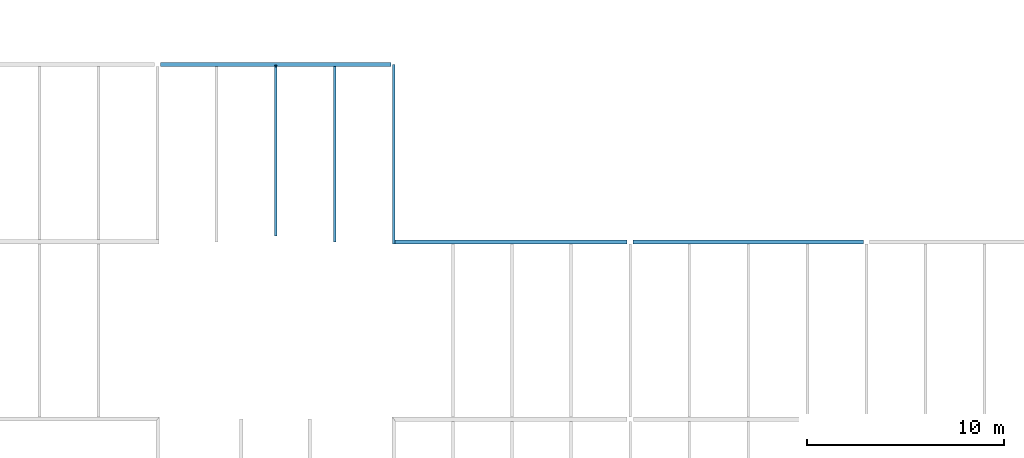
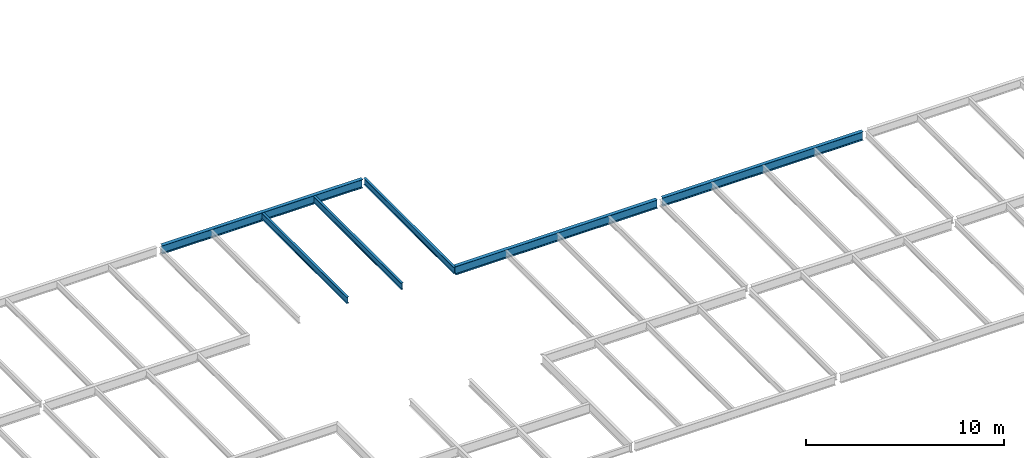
# One storey, part 13 of 21: 6 beams.
"""IFC2X3 building model written with IfcOpenShell, lengths in millimetres."""

from ifc_helpers import new_model, si_unit, origin, place, context, project, spatial, faceted_brep, material, element, save


model = new_model("IFC2X3")

# Units and contexts
context_of_model = context(None, 3, precision=1e-05, world=origin())
ifc_project = project(units=[si_unit("LENGTHUNIT", "METRE", prefix="MILLI")], contexts=[context_of_model])

# Building, storey
building = spatial("IfcBuilding", under=ifc_project, Name="Building", CompositionType="ELEMENT")
storey = spatial("IfcBuildingStorey", under=building, Name="FL3-FRM", CompositionType="ELEMENT")

# Beams
ifc_material_1 = material(Name="A992")
beam_1_placement = place(None, origin())
element("IfcBeam", 1, at=beam_1_placement, inside=storey, material=ifc_material_1, Name="Column463", context=context_of_model, shape_type="Brep", body=[
    faceted_brep([(154.0, 35895.5, 8345.0), (154.0, 36104.5, 8345.0), (11846.0, 36104.5, 8345.0), (11846.0, 35895.5, 8345.0), (154.0, 36104.5, 8358.3), (11846.0, 36104.5, 8358.3), (154.0, 36017.4, 8358.3), (11846.0, 36017.4, 8358.3), (154.0, 36014.2, 8358.73), (11846.0, 36014.2, 8358.73), (154.0, 36011.1, 8360.0), (11846.0, 36011.1, 8360.0), (154.0, 36008.5, 8362.02), (11846.0, 36008.5, 8362.02), (154.0, 36006.5, 8364.65), (11846.0, 36006.5, 8364.65), (154.0, 36005.2, 8367.71), (11846.0, 36005.2, 8367.71), (154.0, 36004.8, 8371.0), (11846.0, 36004.8, 8371.0), (154.0, 36004.8, 8847.0), (11846.0, 36004.8, 8847.0), (154.0, 36005.2, 8850.29), (11846.0, 36005.2, 8850.29), (154.0, 36006.5, 8853.35), (11846.0, 36006.5, 8853.35), (154.0, 36008.5, 8855.98), (11846.0, 36008.5, 8855.98), (154.0, 36011.1, 8858.0), (11846.0, 36011.1, 8858.0), (154.0, 36014.2, 8859.27), (11846.0, 36014.2, 8859.27), (154.0, 36017.4, 8859.7), (11846.0, 36017.4, 8859.7), (154.0, 36104.5, 8859.7), (11846.0, 36104.5, 8859.7), (154.0, 36104.5, 8873.0), (11846.0, 36104.5, 8873.0), (154.0, 35895.5, 8873.0), (11846.0, 35895.5, 8873.0), (154.0, 35895.5, 8859.7), (11846.0, 35895.5, 8859.7), (154.0, 35982.6, 8859.7), (11846.0, 35982.6, 8859.7), (154.0, 35985.8, 8859.27), (11846.0, 35985.8, 8859.27), (154.0, 35988.9, 8858.0), (11846.0, 35988.9, 8858.0), (154.0, 35991.5, 8855.98), (11846.0, 35991.5, 8855.98), (154.0, 35993.5, 8853.35), (11846.0, 35993.5, 8853.35), (154.0, 35994.8, 8850.29), (11846.0, 35994.8, 8850.29), (154.0, 35995.3, 8847.0), (11846.0, 35995.3, 8847.0), (154.0, 35995.3, 8371.0), (11846.0, 35995.3, 8371.0), (154.0, 35994.8, 8367.71), (11846.0, 35994.8, 8367.71), (154.0, 35993.5, 8364.65), (11846.0, 35993.5, 8364.65), (154.0, 35991.5, 8362.02), (11846.0, 35991.5, 8362.02), (154.0, 35988.9, 8360.0), (11846.0, 35988.9, 8360.0), (154.0, 35985.8, 8358.73), (11846.0, 35985.8, 8358.73), (154.0, 35982.6, 8358.3), (11846.0, 35982.6, 8358.3), (154.0, 35895.5, 8358.3), (11846.0, 35895.5, 8358.3)], [[[0, 1, 2, 3]], [[1, 4, 5, 2]], [[4, 6, 7, 5]], [[6, 8, 9, 7]], [[8, 10, 11, 9]], [[10, 12, 13, 11]], [[12, 14, 15, 13]], [[14, 16, 17, 15]], [[16, 18, 19, 17]], [[18, 20, 21, 19]], [[20, 22, 23, 21]], [[22, 24, 25, 23]], [[24, 26, 27, 25]], [[26, 28, 29, 27]], [[28, 30, 31, 29]], [[30, 32, 33, 31]], [[32, 34, 35, 33]], [[34, 36, 37, 35]], [[36, 38, 39, 37]], [[38, 40, 41, 39]], [[40, 42, 43, 41]], [[42, 44, 45, 43]], [[44, 46, 47, 45]], [[46, 48, 49, 47]], [[48, 50, 51, 49]], [[50, 52, 53, 51]], [[52, 54, 55, 53]], [[54, 56, 57, 55]], [[56, 58, 59, 57]], [[58, 60, 61, 59]], [[60, 62, 63, 61]], [[62, 64, 65, 63]], [[64, 66, 67, 65]], [[66, 68, 69, 67]], [[68, 70, 71, 69]], [[70, 0, 3, 71]], [[0, 70, 68, 66, 64, 62, 60, 58, 56, 54, 52, 50, 48, 46, 44, 42, 40, 38, 36, 34, 32, 30, 28, 26, 24, 22, 20, 18, 16, 14, 12, 10, 8, 6, 4, 1]], [[3, 2, 5, 7, 9, 11, 13, 15, 17, 19, 21, 23, 25, 27, 29, 31, 33, 35, 37, 39, 41, 43, 45, 47, 49, 51, 53, 55, 57, 59, 61, 63, 65, 67, 69, 71]]]),
])
ifc_material_2 = material(Name="A992")
beam_2_placement = place(None, origin())
element("IfcBeam", 2, at=beam_2_placement, inside=storey, material=ifc_material_2, Name="B426", context=context_of_model, shape_type="Brep", body=[
    faceted_brep([(8930.0, 35895.5, 8474.0), (9070.0, 35895.5, 8474.0), (9070.0, 27000.0, 8474.0), (8930.0, 27000.0, 8474.0), (9070.0, 35895.5, 8482.8), (9070.0, 27000.0, 8482.8), (9013.4, 35895.5, 8482.8), (9013.4, 27000.0, 8482.8), (9010.76, 35895.5, 8483.15), (9010.76, 27000.0, 8483.15), (9008.3, 35895.5, 8484.17), (9008.3, 27000.0, 8484.17), (9006.19, 35895.5, 8485.79), (9006.19, 27000.0, 8485.79), (9004.57, 35895.5, 8487.9), (9004.57, 27000.0, 8487.9), (9003.55, 35895.5, 8490.36), (9003.55, 27000.0, 8490.36), (9003.2, 35895.5, 8493.0), (9003.2, 27000.0, 8493.0), (9003.2, 35895.5, 8854.0), (9003.2, 27000.0, 8854.0), (9003.55, 35895.5, 8856.64), (9003.55, 27000.0, 8856.64), (9004.57, 35895.5, 8859.1), (9004.57, 27000.0, 8859.1), (9006.19, 35895.5, 8861.21), (9006.19, 27000.0, 8861.21), (9008.3, 35895.5, 8862.83), (9008.3, 27000.0, 8862.83), (9010.76, 35895.5, 8863.85), (9010.76, 27000.0, 8863.85), (9013.4, 35895.5, 8864.2), (9013.4, 27000.0, 8864.2), (9070.0, 35895.5, 8864.2), (9070.0, 27000.0, 8864.2), (9070.0, 35895.5, 8873.0), (9070.0, 27000.0, 8873.0), (8930.0, 35895.5, 8873.0), (8930.0, 27000.0, 8873.0), (8930.0, 35895.5, 8864.2), (8930.0, 27000.0, 8864.2), (8986.6, 35895.5, 8864.2), (8986.6, 27000.0, 8864.2), (8989.24, 35895.5, 8863.85), (8989.24, 27000.0, 8863.85), (8991.7, 35895.5, 8862.83), (8991.7, 27000.0, 8862.83), (8993.81, 35895.5, 8861.21), (8993.81, 27000.0, 8861.21), (8995.43, 35895.5, 8859.1), (8995.43, 27000.0, 8859.1), (8996.45, 35895.5, 8856.64), (8996.45, 27000.0, 8856.64), (8996.8, 35895.5, 8854.0), (8996.8, 27000.0, 8854.0), (8996.8, 35895.5, 8493.0), (8996.8, 27000.0, 8493.0), (8996.45, 35895.5, 8490.36), (8996.45, 27000.0, 8490.36), (8995.43, 35895.5, 8487.9), (8995.43, 27000.0, 8487.9), (8993.81, 35895.5, 8485.79), (8993.81, 27000.0, 8485.79), (8991.7, 35895.5, 8484.17), (8991.7, 27000.0, 8484.17), (8989.24, 35895.5, 8483.15), (8989.24, 27000.0, 8483.15), (8986.6, 35895.5, 8482.8), (8986.6, 27000.0, 8482.8), (8930.0, 35895.5, 8482.8), (8930.0, 27000.0, 8482.8)], [[[0, 1, 2, 3]], [[1, 4, 5, 2]], [[4, 6, 7, 5]], [[6, 8, 9, 7]], [[8, 10, 11, 9]], [[10, 12, 13, 11]], [[12, 14, 15, 13]], [[14, 16, 17, 15]], [[16, 18, 19, 17]], [[18, 20, 21, 19]], [[20, 22, 23, 21]], [[22, 24, 25, 23]], [[24, 26, 27, 25]], [[26, 28, 29, 27]], [[28, 30, 31, 29]], [[30, 32, 33, 31]], [[32, 34, 35, 33]], [[34, 36, 37, 35]], [[36, 38, 39, 37]], [[38, 40, 41, 39]], [[40, 42, 43, 41]], [[42, 44, 45, 43]], [[44, 46, 47, 45]], [[46, 48, 49, 47]], [[48, 50, 51, 49]], [[50, 52, 53, 51]], [[52, 54, 55, 53]], [[54, 56, 57, 55]], [[56, 58, 59, 57]], [[58, 60, 61, 59]], [[60, 62, 63, 61]], [[62, 64, 65, 63]], [[64, 66, 67, 65]], [[66, 68, 69, 67]], [[68, 70, 71, 69]], [[70, 0, 3, 71]], [[0, 70, 68, 66, 64, 62, 60, 58, 56, 54, 52, 50, 48, 46, 44, 42, 40, 38, 36, 34, 32, 30, 28, 26, 24, 22, 20, 18, 16, 14, 12, 10, 8, 6, 4, 1]], [[3, 2, 5, 7, 9, 11, 13, 15, 17, 19, 21, 23, 25, 27, 29, 31, 33, 35, 37, 39, 41, 43, 45, 47, 49, 51, 53, 55, 57, 59, 61, 63, 65, 67, 69, 71]]]),
])
ifc_material_3 = material(Name="A992")
beam_3_placement = place(None, origin())
element("IfcBeam", 3, at=beam_3_placement, inside=storey, material=ifc_material_3, Name="Column470", context=context_of_model, shape_type="Brep", body=[
    faceted_brep([(24154.0, 26895.5, 8345.0), (24154.0, 27104.5, 8345.0), (35846.0, 27104.5, 8345.0), (35846.0, 26895.5, 8345.0), (24154.0, 27104.5, 8358.3), (35846.0, 27104.5, 8358.3), (24154.0, 27017.4, 8358.3), (35846.0, 27017.4, 8358.3), (24154.0, 27014.2, 8358.73), (35846.0, 27014.2, 8358.73), (24154.0, 27011.1, 8360.0), (35846.0, 27011.1, 8360.0), (24154.0, 27008.5, 8362.02), (35846.0, 27008.5, 8362.02), (24154.0, 27006.5, 8364.65), (35846.0, 27006.5, 8364.65), (24154.0, 27005.2, 8367.71), (35846.0, 27005.2, 8367.71), (24154.0, 27004.8, 8371.0), (35846.0, 27004.8, 8371.0), (24154.0, 27004.8, 8847.0), (35846.0, 27004.8, 8847.0), (24154.0, 27005.2, 8850.29), (35846.0, 27005.2, 8850.29), (24154.0, 27006.5, 8853.35), (35846.0, 27006.5, 8853.35), (24154.0, 27008.5, 8855.98), (35846.0, 27008.5, 8855.98), (24154.0, 27011.1, 8858.0), (35846.0, 27011.1, 8858.0), (24154.0, 27014.2, 8859.27), (35846.0, 27014.2, 8859.27), (24154.0, 27017.4, 8859.7), (35846.0, 27017.4, 8859.7), (24154.0, 27104.5, 8859.7), (35846.0, 27104.5, 8859.7), (24154.0, 27104.5, 8873.0), (35846.0, 27104.5, 8873.0), (24154.0, 26895.5, 8873.0), (35846.0, 26895.5, 8873.0), (24154.0, 26895.5, 8859.7), (35846.0, 26895.5, 8859.7), (24154.0, 26982.6, 8859.7), (35846.0, 26982.6, 8859.7), (24154.0, 26985.8, 8859.27), (35846.0, 26985.8, 8859.27), (24154.0, 26988.9, 8858.0), (35846.0, 26988.9, 8858.0), (24154.0, 26991.5, 8855.98), (35846.0, 26991.5, 8855.98), (24154.0, 26993.5, 8853.35), (35846.0, 26993.5, 8853.35), (24154.0, 26994.8, 8850.29), (35846.0, 26994.8, 8850.29), (24154.0, 26995.3, 8847.0), (35846.0, 26995.3, 8847.0), (24154.0, 26995.3, 8371.0), (35846.0, 26995.3, 8371.0), (24154.0, 26994.8, 8367.71), (35846.0, 26994.8, 8367.71), (24154.0, 26993.5, 8364.65), (35846.0, 26993.5, 8364.65), (24154.0, 26991.5, 8362.02), (35846.0, 26991.5, 8362.02), (24154.0, 26988.9, 8360.0), (35846.0, 26988.9, 8360.0), (24154.0, 26985.8, 8358.73), (35846.0, 26985.8, 8358.73), (24154.0, 26982.6, 8358.3), (35846.0, 26982.6, 8358.3), (24154.0, 26895.5, 8358.3), (35846.0, 26895.5, 8358.3)], [[[0, 1, 2, 3]], [[1, 4, 5, 2]], [[4, 6, 7, 5]], [[6, 8, 9, 7]], [[8, 10, 11, 9]], [[10, 12, 13, 11]], [[12, 14, 15, 13]], [[14, 16, 17, 15]], [[16, 18, 19, 17]], [[18, 20, 21, 19]], [[20, 22, 23, 21]], [[22, 24, 25, 23]], [[24, 26, 27, 25]], [[26, 28, 29, 27]], [[28, 30, 31, 29]], [[30, 32, 33, 31]], [[32, 34, 35, 33]], [[34, 36, 37, 35]], [[36, 38, 39, 37]], [[38, 40, 41, 39]], [[40, 42, 43, 41]], [[42, 44, 45, 43]], [[44, 46, 47, 45]], [[46, 48, 49, 47]], [[48, 50, 51, 49]], [[50, 52, 53, 51]], [[52, 54, 55, 53]], [[54, 56, 57, 55]], [[56, 58, 59, 57]], [[58, 60, 61, 59]], [[60, 62, 63, 61]], [[62, 64, 65, 63]], [[64, 66, 67, 65]], [[66, 68, 69, 67]], [[68, 70, 71, 69]], [[70, 0, 3, 71]], [[0, 70, 68, 66, 64, 62, 60, 58, 56, 54, 52, 50, 48, 46, 44, 42, 40, 38, 36, 34, 32, 30, 28, 26, 24, 22, 20, 18, 16, 14, 12, 10, 8, 6, 4, 1]], [[3, 2, 5, 7, 9, 11, 13, 15, 17, 19, 21, 23, 25, 27, 29, 31, 33, 35, 37, 39, 41, 43, 45, 47, 49, 51, 53, 55, 57, 59, 61, 63, 65, 67, 69, 71]]]),
])
ifc_material_4 = material(Name="A992")
beam_4_placement = place(None, origin())
element("IfcBeam", 4, at=beam_4_placement, inside=storey, material=ifc_material_4, Name="Column473", context=context_of_model, shape_type="Brep", body=[
    faceted_brep([(12070.0, 26895.5, 8345.0), (12070.0, 27104.5, 8345.0), (23846.0, 27104.5, 8345.0), (23846.0, 26895.5, 8345.0), (12070.0, 27104.5, 8358.3), (23846.0, 27104.5, 8358.3), (12070.0, 27017.4, 8358.3), (23846.0, 27017.4, 8358.3), (12070.0, 27014.2, 8358.73), (23846.0, 27014.2, 8358.73), (12070.0, 27011.1, 8360.0), (23846.0, 27011.1, 8360.0), (12070.0, 27008.5, 8362.02), (23846.0, 27008.5, 8362.02), (12070.0, 27006.5, 8364.65), (23846.0, 27006.5, 8364.65), (12070.0, 27005.2, 8367.71), (23846.0, 27005.2, 8367.71), (12070.0, 27004.8, 8371.0), (23846.0, 27004.8, 8371.0), (12070.0, 27004.8, 8847.0), (23846.0, 27004.8, 8847.0), (12070.0, 27005.2, 8850.29), (23846.0, 27005.2, 8850.29), (12070.0, 27006.5, 8853.35), (23846.0, 27006.5, 8853.35), (12070.0, 27008.5, 8855.98), (23846.0, 27008.5, 8855.98), (12070.0, 27011.1, 8858.0), (23846.0, 27011.1, 8858.0), (12070.0, 27014.2, 8859.27), (23846.0, 27014.2, 8859.27), (12070.0, 27017.4, 8859.7), (23846.0, 27017.4, 8859.7), (12070.0, 27104.5, 8859.7), (23846.0, 27104.5, 8859.7), (12070.0, 27104.5, 8873.0), (23846.0, 27104.5, 8873.0), (12070.0, 26895.5, 8873.0), (23846.0, 26895.5, 8873.0), (12070.0, 26895.5, 8859.7), (23846.0, 26895.5, 8859.7), (12070.0, 26982.6, 8859.7), (23846.0, 26982.6, 8859.7), (12070.0, 26985.8, 8859.27), (23846.0, 26985.8, 8859.27), (12070.0, 26988.9, 8858.0), (23846.0, 26988.9, 8858.0), (12070.0, 26991.5, 8855.98), (23846.0, 26991.5, 8855.98), (12070.0, 26993.5, 8853.35), (23846.0, 26993.5, 8853.35), (12070.0, 26994.8, 8850.29), (23846.0, 26994.8, 8850.29), (12070.0, 26995.3, 8847.0), (23846.0, 26995.3, 8847.0), (12070.0, 26995.3, 8371.0), (23846.0, 26995.3, 8371.0), (12070.0, 26994.8, 8367.71), (23846.0, 26994.8, 8367.71), (12070.0, 26993.5, 8364.65), (23846.0, 26993.5, 8364.65), (12070.0, 26991.5, 8362.02), (23846.0, 26991.5, 8362.02), (12070.0, 26988.9, 8360.0), (23846.0, 26988.9, 8360.0), (12070.0, 26985.8, 8358.73), (23846.0, 26985.8, 8358.73), (12070.0, 26982.6, 8358.3), (23846.0, 26982.6, 8358.3), (12070.0, 26895.5, 8358.3), (23846.0, 26895.5, 8358.3)], [[[0, 1, 2, 3]], [[1, 4, 5, 2]], [[4, 6, 7, 5]], [[6, 8, 9, 7]], [[8, 10, 11, 9]], [[10, 12, 13, 11]], [[12, 14, 15, 13]], [[14, 16, 17, 15]], [[16, 18, 19, 17]], [[18, 20, 21, 19]], [[20, 22, 23, 21]], [[22, 24, 25, 23]], [[24, 26, 27, 25]], [[26, 28, 29, 27]], [[28, 30, 31, 29]], [[30, 32, 33, 31]], [[32, 34, 35, 33]], [[34, 36, 37, 35]], [[36, 38, 39, 37]], [[38, 40, 41, 39]], [[40, 42, 43, 41]], [[42, 44, 45, 43]], [[44, 46, 47, 45]], [[46, 48, 49, 47]], [[48, 50, 51, 49]], [[50, 52, 53, 51]], [[52, 54, 55, 53]], [[54, 56, 57, 55]], [[56, 58, 59, 57]], [[58, 60, 61, 59]], [[60, 62, 63, 61]], [[62, 64, 65, 63]], [[64, 66, 67, 65]], [[66, 68, 69, 67]], [[68, 70, 71, 69]], [[70, 0, 3, 71]], [[0, 70, 68, 66, 64, 62, 60, 58, 56, 54, 52, 50, 48, 46, 44, 42, 40, 38, 36, 34, 32, 30, 28, 26, 24, 22, 20, 18, 16, 14, 12, 10, 8, 6, 4, 1]], [[3, 2, 5, 7, 9, 11, 13, 15, 17, 19, 21, 23, 25, 27, 29, 31, 33, 35, 37, 39, 41, 43, 45, 47, 49, 51, 53, 55, 57, 59, 61, 63, 65, 67, 69, 71]]]),
])
ifc_material_5 = material(Name="A992")
beam_5_placement = place(None, origin())
element("IfcBeam", 5, at=beam_5_placement, inside=storey, material=ifc_material_5, Name="B747", context=context_of_model, shape_type="Brep", body=[
    faceted_brep([(11930.0, 35995.1, 8474.0), (12070.0, 35995.1, 8474.0), (12070.0, 26895.5, 8474.0), (11930.0, 26895.5, 8474.0), (12070.0, 35995.1, 8482.8), (12070.0, 26895.5, 8482.8), (12013.4, 35995.1, 8482.8), (12013.4, 26895.5, 8482.8), (12010.8, 35995.1, 8483.15), (12010.8, 26895.5, 8483.15), (12008.3, 35995.1, 8484.17), (12008.3, 26895.5, 8484.17), (12006.2, 35995.1, 8485.79), (12006.2, 26895.5, 8485.79), (12004.6, 35995.1, 8487.9), (12004.6, 26895.5, 8487.9), (12003.5, 35995.1, 8490.36), (12003.5, 26895.5, 8490.36), (12003.2, 35995.1, 8493.0), (12003.2, 26895.5, 8493.0), (12003.2, 35995.1, 8854.0), (12003.2, 26895.5, 8854.0), (12003.5, 35995.1, 8856.64), (12003.5, 26895.5, 8856.64), (12004.6, 35995.1, 8859.1), (12004.6, 26895.5, 8859.1), (12006.2, 35995.1, 8861.21), (12006.2, 26895.5, 8861.21), (12008.3, 35995.1, 8862.83), (12008.3, 26895.5, 8862.83), (12010.8, 35995.1, 8863.85), (12010.8, 26895.5, 8863.85), (12013.4, 35995.1, 8864.2), (12013.4, 26895.5, 8864.2), (12070.0, 35995.1, 8864.2), (12070.0, 26895.5, 8864.2), (12070.0, 35995.1, 8873.0), (12070.0, 26895.5, 8873.0), (11930.0, 35995.1, 8873.0), (11930.0, 26895.5, 8873.0), (11930.0, 35995.1, 8864.2), (11930.0, 26895.5, 8864.2), (11986.6, 35995.1, 8864.2), (11986.6, 26895.5, 8864.2), (11989.2, 35995.1, 8863.85), (11989.2, 26895.5, 8863.85), (11991.7, 35995.1, 8862.83), (11991.7, 26895.5, 8862.83), (11993.8, 35995.1, 8861.21), (11993.8, 26895.5, 8861.21), (11995.4, 35995.1, 8859.1), (11995.4, 26895.5, 8859.1), (11996.5, 35995.1, 8856.64), (11996.5, 26895.5, 8856.64), (11996.8, 35995.1, 8854.0), (11996.8, 26895.5, 8854.0), (11996.8, 35995.1, 8493.0), (11996.8, 26895.5, 8493.0), (11996.5, 35995.1, 8490.36), (11996.5, 26895.5, 8490.36), (11995.4, 35995.1, 8487.9), (11995.4, 26895.5, 8487.9), (11993.8, 35995.1, 8485.79), (11993.8, 26895.5, 8485.79), (11991.7, 35995.1, 8484.17), (11991.7, 26895.5, 8484.17), (11989.2, 35995.1, 8483.15), (11989.2, 26895.5, 8483.15), (11986.6, 35995.1, 8482.8), (11986.6, 26895.5, 8482.8), (11930.0, 35995.1, 8482.8), (11930.0, 26895.5, 8482.8)], [[[0, 1, 2, 3]], [[1, 4, 5, 2]], [[4, 6, 7, 5]], [[6, 8, 9, 7]], [[8, 10, 11, 9]], [[10, 12, 13, 11]], [[12, 14, 15, 13]], [[14, 16, 17, 15]], [[16, 18, 19, 17]], [[18, 20, 21, 19]], [[20, 22, 23, 21]], [[22, 24, 25, 23]], [[24, 26, 27, 25]], [[26, 28, 29, 27]], [[28, 30, 31, 29]], [[30, 32, 33, 31]], [[32, 34, 35, 33]], [[34, 36, 37, 35]], [[36, 38, 39, 37]], [[38, 40, 41, 39]], [[40, 42, 43, 41]], [[42, 44, 45, 43]], [[44, 46, 47, 45]], [[46, 48, 49, 47]], [[48, 50, 51, 49]], [[50, 52, 53, 51]], [[52, 54, 55, 53]], [[54, 56, 57, 55]], [[56, 58, 59, 57]], [[58, 60, 61, 59]], [[60, 62, 63, 61]], [[62, 64, 65, 63]], [[64, 66, 67, 65]], [[66, 68, 69, 67]], [[68, 70, 71, 69]], [[70, 0, 3, 71]], [[0, 70, 68, 66, 64, 62, 60, 58, 56, 54, 52, 50, 48, 46, 44, 42, 40, 38, 36, 34, 32, 30, 28, 26, 24, 22, 20, 18, 16, 14, 12, 10, 8, 6, 4, 1]], [[3, 2, 5, 7, 9, 11, 13, 15, 17, 19, 21, 23, 25, 27, 29, 31, 33, 35, 37, 39, 41, 43, 45, 47, 49, 51, 53, 55, 57, 59, 61, 63, 65, 67, 69, 71]]]),
])
ifc_material_6 = material(Name="A992")
beam_6_placement = place(None, origin())
element("IfcBeam", 6, at=beam_6_placement, inside=storey, material=ifc_material_6, Name="B762", context=context_of_model, shape_type="Brep", body=[
    faceted_brep([(5930.0, 35985.3, 8474.0), (6070.0, 35985.3, 8474.0), (6070.0, 27304.8, 8474.0), (5930.0, 27304.8, 8474.0), (6070.0, 35985.3, 8482.8), (6070.0, 27304.8, 8482.8), (6013.4, 35985.3, 8482.8), (6013.4, 27304.8, 8482.8), (6012.96, 35985.3, 8482.81), (6012.96, 27304.8, 8482.81), (6012.51, 35985.3, 8482.84), (6012.51, 27304.8, 8482.84), (6012.07, 35985.3, 8482.89), (6012.07, 27304.8, 8482.89), (6011.63, 35985.3, 8482.95), (6011.63, 27304.8, 8482.95), (6011.19, 35985.2, 8483.04), (6011.19, 27304.8, 8483.04), (6010.76, 35985.2, 8483.15), (6010.76, 27304.8, 8483.15), (6010.33, 35985.2, 8483.27), (6010.33, 27304.8, 8483.27), (6009.91, 35985.2, 8483.42), (6009.91, 27304.8, 8483.42), (6009.5, 35985.3, 8483.58), (6009.5, 27304.8, 8483.58), (6009.09, 35985.3, 8483.76), (6009.09, 27304.8, 8483.76), (6008.69, 35985.3, 8483.95), (6008.69, 27304.8, 8483.95), (6008.3, 35985.3, 8484.17), (6008.3, 27304.8, 8484.17), (6007.92, 35985.3, 8484.4), (6007.92, 27304.8, 8484.4), (6007.55, 35985.3, 8484.64), (6007.55, 27304.8, 8484.64), (6007.19, 35985.3, 8484.91), (6007.19, 27304.8, 8484.91), (6006.84, 35985.3, 8485.19), (6006.84, 27304.8, 8485.19), (6006.51, 35985.3, 8485.48), (6006.51, 27304.8, 8485.48), (6006.19, 35985.3, 8485.79), (6006.19, 27304.8, 8485.79), (6005.88, 35985.3, 8486.11), (6005.88, 27304.8, 8486.11), (6005.59, 35985.3, 8486.44), (6005.59, 27304.8, 8486.44), (6005.31, 35985.3, 8486.79), (6005.31, 27304.8, 8486.79), (6005.04, 35985.3, 8487.15), (6005.04, 27304.8, 8487.15), (6004.8, 35985.3, 8487.52), (6004.8, 27304.8, 8487.52), (6004.57, 35985.3, 8487.9), (6004.57, 27304.8, 8487.9), (6004.35, 35985.3, 8488.29), (6004.35, 27304.8, 8488.29), (6004.16, 35985.3, 8488.69), (6004.16, 27304.8, 8488.69), (6003.98, 35985.3, 8489.1), (6003.98, 27304.8, 8489.1), (6003.82, 35985.3, 8489.51), (6003.82, 27304.8, 8489.51), (6003.67, 35985.3, 8489.93), (6003.67, 27304.8, 8489.93), (6003.55, 35985.3, 8490.36), (6003.55, 27304.8, 8490.36), (6003.44, 35985.3, 8490.79), (6003.44, 27304.8, 8490.79), (6003.35, 35985.3, 8491.23), (6003.35, 27304.8, 8491.23), (6003.29, 35985.3, 8491.67), (6003.29, 27304.8, 8491.67), (6003.24, 35985.3, 8492.11), (6003.24, 27304.8, 8492.11), (6003.21, 35985.3, 8492.56), (6003.21, 27304.8, 8492.56), (6003.2, 35985.3, 8493.0), (6003.2, 27304.8, 8493.0), (6003.2, 35985.3, 8849.69), (6003.2, 35895.5, 8849.69), (6003.2, 35895.1, 8849.7), (6003.2, 35894.6, 8849.73), (6003.2, 35894.2, 8849.78), (6003.2, 35893.7, 8849.85), (6003.2, 35893.3, 8849.94), (6003.2, 35892.8, 8850.05), (6003.2, 35892.4, 8850.18), (6003.2, 35892.0, 8850.33), (6003.2, 35891.6, 8850.49), (6003.2, 35891.2, 8850.68), (6003.2, 35890.8, 8850.88), (6003.2, 35890.4, 8851.11), (6003.2, 35890.0, 8851.34), (6003.2, 35889.6, 8851.6), (6003.2, 35889.3, 8851.87), (6003.2, 35888.9, 8852.16), (6003.2, 35888.6, 8852.46), (6003.2, 35888.3, 8852.78), (6003.2, 35888.0, 8853.11), (6003.2, 35887.7, 8853.46), (6003.2, 35887.4, 8853.81), (6003.2, 35887.3, 8854.0), (6003.2, 27304.8, 8854.0), (6003.2, 35887.2, 8854.18), (6003.21, 35887.0, 8854.44), (6003.21, 27304.8, 8854.44), (6003.22, 35886.9, 8854.56), (6003.24, 35886.7, 8854.89), (6003.24, 27304.8, 8854.89), (6003.25, 35886.7, 8854.95), (6003.29, 35886.5, 8855.33), (6003.29, 27304.8, 8855.33), (6003.29, 35886.5, 8855.35), (6003.35, 35886.3, 8855.76), (6003.35, 35886.3, 8855.77), (6003.35, 27304.8, 8855.77), (6003.44, 35886.1, 8856.18), (6003.44, 35886.1, 8856.21), (6003.44, 27304.8, 8856.21), (6003.54, 35886.0, 8856.6), (6003.55, 35886.0, 8856.64), (6003.55, 27304.8, 8856.64), (6003.66, 35885.9, 8857.03), (6003.67, 35885.9, 8857.07), (6003.67, 27304.8, 8857.07), (6003.81, 35885.8, 8857.46), (6003.82, 35885.7, 8857.49), (6003.82, 27304.8, 8857.49), (6003.98, 35885.7, 8857.9), (6003.98, 27304.8, 8857.9), (6003.98, 35885.7, 8857.9), (6004.16, 35885.6, 8858.31), (6004.16, 27304.8, 8858.31), (6004.17, 35885.6, 8858.35), (6004.35, 35885.5, 8858.71), (6004.35, 27304.8, 8858.71), (6004.4, 35885.5, 8858.79), (6004.57, 35885.5, 8859.1), (6004.57, 27304.8, 8859.1), (6004.65, 35885.5, 8859.24), (6004.8, 35885.5, 8859.48), (6004.8, 27304.8, 8859.48), (6004.94, 35885.5, 8859.69), (6005.04, 35885.5, 8859.85), (6005.04, 27304.8, 8859.85), (6005.31, 35885.5, 8860.21), (6005.31, 27304.8, 8860.21), (6005.59, 35885.5, 8860.56), (6005.59, 27304.8, 8860.56), (6005.88, 35885.5, 8860.89), (6005.88, 27304.8, 8860.89), (6006.19, 35885.5, 8861.21), (6006.19, 27304.8, 8861.21), (6006.51, 35885.5, 8861.52), (6006.51, 27304.8, 8861.52), (6006.84, 35885.5, 8861.81), (6006.84, 27304.8, 8861.81), (6007.19, 35885.5, 8862.09), (6007.19, 27304.8, 8862.09), (6007.55, 35885.5, 8862.36), (6007.55, 27304.8, 8862.36), (6007.92, 35885.5, 8862.6), (6007.92, 27304.8, 8862.6), (6008.3, 35885.5, 8862.83), (6008.3, 27304.8, 8862.83), (6008.69, 35885.5, 8863.05), (6008.69, 27304.8, 8863.05), (6009.09, 35885.5, 8863.24), (6009.09, 27304.8, 8863.24), (6009.5, 35885.5, 8863.42), (6009.5, 27304.8, 8863.42), (6009.91, 35885.5, 8863.58), (6009.91, 27304.8, 8863.58), (6010.33, 35885.5, 8863.73), (6010.33, 27304.8, 8863.73), (6010.76, 35885.5, 8863.85), (6010.76, 27304.8, 8863.85), (6011.19, 35885.5, 8863.96), (6011.19, 27304.8, 8863.96), (6011.63, 35885.5, 8864.05), (6011.63, 27304.8, 8864.05), (6012.07, 35885.5, 8864.11), (6012.07, 27304.8, 8864.11), (6012.51, 35885.5, 8864.16), (6012.51, 27304.8, 8864.16), (6012.96, 35885.5, 8864.19), (6012.96, 27304.8, 8864.19), (6013.4, 35885.5, 8864.2), (6013.4, 27304.8, 8864.2), (6070.0, 35885.5, 8864.2), (6070.0, 27304.8, 8864.2), (6070.0, 35885.5, 8873.0), (6070.0, 27304.8, 8873.0), (5930.0, 35885.5, 8873.0), (5930.0, 27304.8, 8873.0), (5930.0, 35885.5, 8864.2), (5930.0, 27304.8, 8864.2), (5986.6, 35885.5, 8864.2), (5986.6, 27304.8, 8864.2), (5987.04, 35885.5, 8864.19), (5987.04, 27304.8, 8864.19), (5987.49, 35885.5, 8864.16), (5987.49, 27304.8, 8864.16), (5987.93, 35885.5, 8864.11), (5987.93, 27304.8, 8864.11), (5988.37, 35885.5, 8864.05), (5988.37, 27304.8, 8864.05), (5988.81, 35885.5, 8863.96), (5988.81, 27304.8, 8863.96), (5989.24, 35885.5, 8863.85), (5989.24, 27304.8, 8863.85), (5989.67, 35885.5, 8863.73), (5989.67, 27304.8, 8863.73), (5990.09, 35885.5, 8863.58), (5990.09, 27304.8, 8863.58), (5990.5, 35885.5, 8863.42), (5990.5, 27304.8, 8863.42), (5990.91, 35885.5, 8863.24), (5990.91, 27304.8, 8863.24), (5991.31, 35885.5, 8863.05), (5991.31, 27304.8, 8863.05), (5991.7, 35885.5, 8862.83), (5991.7, 27304.8, 8862.83), (5992.08, 35885.5, 8862.6), (5992.08, 27304.8, 8862.6), (5992.45, 35885.5, 8862.36), (5992.45, 27304.8, 8862.36), (5992.81, 35885.5, 8862.09), (5992.81, 27304.8, 8862.09), (5993.16, 35885.5, 8861.81), (5993.16, 27304.8, 8861.81), (5993.49, 35885.5, 8861.52), (5993.49, 27304.8, 8861.52), (5993.81, 35885.5, 8861.21), (5993.81, 27304.8, 8861.21), (5994.12, 35885.5, 8860.89), (5994.12, 27304.8, 8860.89), (5994.41, 35885.5, 8860.56), (5994.41, 27304.8, 8860.56), (5994.69, 35885.5, 8860.21), (5994.69, 27304.8, 8860.21), (5994.96, 35885.5, 8859.85), (5994.96, 27304.8, 8859.85), (5995.06, 35885.5, 8859.69), (5995.2, 35885.5, 8859.48), (5995.2, 27304.8, 8859.48), (5995.35, 35885.5, 8859.24), (5995.43, 35885.5, 8859.1), (5995.43, 27304.8, 8859.1), (5995.6, 35885.5, 8858.79), (5995.65, 35885.5, 8858.71), (5995.65, 27304.8, 8858.71), (5995.83, 35885.6, 8858.35), (5995.84, 35885.6, 8858.31), (5995.84, 27304.8, 8858.31), (5996.02, 35885.7, 8857.9), (5996.02, 35885.7, 8857.9), (5996.02, 27304.8, 8857.9), (5996.18, 35885.7, 8857.49), (5996.18, 27304.8, 8857.49), (5996.19, 35885.8, 8857.46), (5996.33, 35885.9, 8857.07), (5996.33, 27304.8, 8857.07), (5996.34, 35885.9, 8857.03), (5996.45, 35886.0, 8856.64), (5996.45, 27304.8, 8856.64), (5996.46, 35886.0, 8856.6), (5996.56, 35886.1, 8856.21), (5996.56, 27304.8, 8856.21), (5996.56, 35886.1, 8856.18), (5996.65, 35886.3, 8855.77), (5996.65, 27304.8, 8855.77), (5996.65, 35886.3, 8855.76), (5996.71, 35886.5, 8855.35), (5996.71, 35886.5, 8855.33), (5996.71, 27304.8, 8855.33), (5996.75, 35886.7, 8854.95), (5996.76, 35886.7, 8854.89), (5996.76, 27304.8, 8854.89), (5996.78, 35886.9, 8854.56), (5996.79, 35887.0, 8854.44), (5996.79, 27304.8, 8854.44), (5996.8, 35887.2, 8854.18), (5996.8, 35887.3, 8854.0), (5996.8, 27304.8, 8854.0), (5996.8, 35887.4, 8853.81), (5996.8, 35887.7, 8853.46), (5996.8, 35888.0, 8853.11), (5996.8, 35888.3, 8852.78), (5996.8, 35888.6, 8852.46), (5996.8, 35888.9, 8852.16), (5996.8, 35889.3, 8851.87), (5996.8, 35889.6, 8851.6), (5996.8, 35890.0, 8851.34), (5996.8, 35890.4, 8851.11), (5996.8, 35890.8, 8850.88), (5996.8, 35891.2, 8850.68), (5996.8, 35891.6, 8850.49), (5996.8, 35892.0, 8850.33), (5996.8, 35892.4, 8850.18), (5996.8, 35892.8, 8850.05), (5996.8, 35893.3, 8849.94), (5996.8, 35893.7, 8849.85), (5996.8, 35894.2, 8849.78), (5996.8, 35894.6, 8849.73), (5996.8, 35895.1, 8849.7), (5996.8, 35895.5, 8849.69), (5996.8, 35985.3, 8849.69), (5996.8, 35985.3, 8493.0), (5996.8, 27304.8, 8493.0), (5996.79, 35985.3, 8492.54), (5996.79, 27304.8, 8492.54), (5996.76, 35985.3, 8492.09), (5996.76, 27304.8, 8492.09), (5996.71, 35985.3, 8491.63), (5996.71, 27304.8, 8491.63), (5996.64, 35985.3, 8491.18), (5996.64, 27304.8, 8491.18), (5996.54, 35985.3, 8490.73), (5996.54, 27304.8, 8490.73), (5996.43, 35985.3, 8490.29), (5996.43, 27304.8, 8490.29), (5996.3, 35985.3, 8489.85), (5996.3, 27304.8, 8489.85), (5996.15, 35985.3, 8489.42), (5996.15, 27304.8, 8489.42), (5995.98, 35985.3, 8488.99), (5995.98, 27304.8, 8488.99), (5995.79, 35985.3, 8488.57), (5995.79, 27304.8, 8488.57), (5995.58, 35985.3, 8488.17), (5995.58, 27304.8, 8488.17), (5995.36, 35985.3, 8487.77), (5995.36, 27304.8, 8487.77), (5995.11, 35985.3, 8487.38), (5995.11, 27304.8, 8487.38), (5994.85, 35985.3, 8487.0), (5994.85, 27304.8, 8487.0), (5994.57, 35985.3, 8486.64), (5994.57, 27304.8, 8486.64), (5994.28, 35985.3, 8486.29), (5994.28, 27304.8, 8486.29), (5993.97, 35985.3, 8485.95), (5993.97, 27304.8, 8485.95), (5993.65, 35985.3, 8485.63), (5993.65, 27304.8, 8485.63), (5993.31, 35985.3, 8485.32), (5993.31, 27304.8, 8485.32), (5992.96, 35985.3, 8485.03), (5992.96, 27304.8, 8485.03), (5992.6, 35985.3, 8484.75), (5992.6, 27304.8, 8484.75), (5992.22, 35985.3, 8484.49), (5992.22, 27304.8, 8484.49), (5991.83, 35985.3, 8484.24), (5991.83, 27304.8, 8484.24), (5991.43, 35985.3, 8484.02), (5991.43, 27304.8, 8484.02), (5991.03, 35985.3, 8483.81), (5991.03, 27304.8, 8483.81), (5990.61, 35985.3, 8483.62), (5990.61, 27304.8, 8483.62), (5990.18, 35985.3, 8483.45), (5990.18, 27304.8, 8483.45), (5989.75, 35985.3, 8483.3), (5989.75, 27304.8, 8483.3), (5989.31, 35985.3, 8483.17), (5989.31, 27304.8, 8483.17), (5988.87, 35985.3, 8483.06), (5988.87, 27304.8, 8483.06), (5988.42, 35985.3, 8482.96), (5988.42, 27304.8, 8482.96), (5987.97, 35985.3, 8482.89), (5987.97, 27304.8, 8482.89), (5987.51, 35985.3, 8482.84), (5987.51, 27304.8, 8482.84), (5987.06, 35985.3, 8482.81), (5987.06, 27304.8, 8482.81), (5986.6, 35985.3, 8482.8), (5986.6, 27304.8, 8482.8), (5930.0, 35985.3, 8482.8), (5930.0, 27304.8, 8482.8)], [[[0, 1, 2, 3]], [[1, 4, 5, 2]], [[4, 6, 7, 5]], [[6, 8, 9, 7]], [[8, 10, 11, 9]], [[10, 12, 13, 11]], [[12, 14, 15, 13]], [[14, 16, 17, 15]], [[16, 18, 19, 17]], [[18, 20, 21, 19]], [[20, 22, 23, 21]], [[22, 24, 25, 23]], [[24, 26, 27, 25]], [[26, 28, 29, 27]], [[28, 30, 31, 29]], [[30, 32, 33, 31]], [[32, 34, 35, 33]], [[34, 36, 37, 35]], [[36, 38, 39, 37]], [[38, 40, 41, 39]], [[40, 42, 43, 41]], [[42, 44, 45, 43]], [[44, 46, 47, 45]], [[46, 48, 49, 47]], [[48, 50, 51, 49]], [[50, 52, 53, 51]], [[52, 54, 55, 53]], [[54, 56, 57, 55]], [[56, 58, 59, 57]], [[58, 60, 61, 59]], [[60, 62, 63, 61]], [[62, 64, 65, 63]], [[64, 66, 67, 65]], [[66, 68, 69, 67]], [[68, 70, 71, 69]], [[70, 72, 73, 71]], [[72, 74, 75, 73]], [[74, 76, 77, 75]], [[76, 78, 79, 77]], [[78, 80, 81, 82, 83, 84, 85, 86, 87, 88, 89, 90, 91, 92, 93, 94, 95, 96, 97, 98, 99, 100, 101, 102, 103, 104, 79]], [[103, 105, 106, 107, 104]], [[106, 108, 109, 110, 107]], [[109, 111, 112, 113, 110]], [[112, 114, 115, 116, 117, 113]], [[116, 118, 119, 120, 117]], [[119, 121, 122, 123, 120]], [[122, 124, 125, 126, 123]], [[125, 127, 128, 129, 126]], [[128, 130, 131, 129]], [[130, 132, 133, 134, 131]], [[133, 135, 136, 137, 134]], [[136, 138, 139, 140, 137]], [[139, 141, 142, 143, 140]], [[142, 144, 145, 146, 143]], [[145, 147, 148, 146]], [[147, 149, 150, 148]], [[149, 151, 152, 150]], [[151, 153, 154, 152]], [[153, 155, 156, 154]], [[155, 157, 158, 156]], [[157, 159, 160, 158]], [[159, 161, 162, 160]], [[161, 163, 164, 162]], [[163, 165, 166, 164]], [[165, 167, 168, 166]], [[167, 169, 170, 168]], [[169, 171, 172, 170]], [[171, 173, 174, 172]], [[173, 175, 176, 174]], [[175, 177, 178, 176]], [[177, 179, 180, 178]], [[179, 181, 182, 180]], [[181, 183, 184, 182]], [[183, 185, 186, 184]], [[185, 187, 188, 186]], [[187, 189, 190, 188]], [[189, 191, 192, 190]], [[191, 193, 194, 192]], [[193, 195, 196, 194]], [[195, 197, 198, 196]], [[197, 199, 200, 198]], [[199, 201, 202, 200]], [[201, 203, 204, 202]], [[203, 205, 206, 204]], [[205, 207, 208, 206]], [[207, 209, 210, 208]], [[209, 211, 212, 210]], [[211, 213, 214, 212]], [[213, 215, 216, 214]], [[215, 217, 218, 216]], [[217, 219, 220, 218]], [[219, 221, 222, 220]], [[221, 223, 224, 222]], [[223, 225, 226, 224]], [[225, 227, 228, 226]], [[227, 229, 230, 228]], [[229, 231, 232, 230]], [[231, 233, 234, 232]], [[233, 235, 236, 234]], [[235, 237, 238, 236]], [[237, 239, 240, 238]], [[239, 241, 242, 240]], [[241, 243, 244, 242]], [[243, 245, 246, 247, 244]], [[246, 248, 249, 250, 247]], [[249, 251, 252, 253, 250]], [[252, 254, 255, 256, 253]], [[255, 257, 258, 259, 256]], [[258, 260, 261, 259]], [[260, 262, 263, 264, 261]], [[263, 265, 266, 267, 264]], [[266, 268, 269, 270, 267]], [[269, 271, 272, 273, 270]], [[272, 274, 275, 276, 277, 273]], [[276, 278, 279, 280, 277]], [[279, 281, 282, 283, 280]], [[282, 284, 285, 286, 283]], [[285, 287, 288, 289, 290, 291, 292, 293, 294, 295, 296, 297, 298, 299, 300, 301, 302, 303, 304, 305, 306, 307, 308, 309, 310, 311, 286]], [[310, 312, 313, 311]], [[312, 314, 315, 313]], [[314, 316, 317, 315]], [[316, 318, 319, 317]], [[318, 320, 321, 319]], [[320, 322, 323, 321]], [[322, 324, 325, 323]], [[324, 326, 327, 325]], [[326, 328, 329, 327]], [[328, 330, 331, 329]], [[330, 332, 333, 331]], [[332, 334, 335, 333]], [[334, 336, 337, 335]], [[336, 338, 339, 337]], [[338, 340, 341, 339]], [[340, 342, 343, 341]], [[342, 344, 345, 343]], [[344, 346, 347, 345]], [[346, 348, 349, 347]], [[348, 350, 351, 349]], [[350, 352, 353, 351]], [[352, 354, 355, 353]], [[354, 356, 357, 355]], [[356, 358, 359, 357]], [[358, 360, 361, 359]], [[360, 362, 363, 361]], [[362, 364, 365, 363]], [[364, 366, 367, 365]], [[366, 368, 369, 367]], [[368, 370, 371, 369]], [[370, 372, 373, 371]], [[372, 374, 375, 373]], [[374, 376, 377, 375]], [[376, 378, 379, 377]], [[378, 380, 381, 379]], [[380, 382, 383, 381]], [[382, 0, 3, 383]], [[3, 2, 5, 7, 9, 11, 13, 15, 17, 19, 21, 23, 25, 27, 29, 31, 33, 35, 37, 39, 41, 43, 45, 47, 49, 51, 53, 55, 57, 59, 61, 63, 65, 67, 69, 71, 73, 75, 77, 79, 104, 107, 110, 113, 117, 120, 123, 126, 129, 131, 134, 137, 140, 143, 146, 148, 150, 152, 154, 156, 158, 160, 162, 164, 166, 168, 170, 172, 174, 176, 178, 180, 182, 184, 186, 188, 190, 192, 194, 196, 198, 200, 202, 204, 206, 208, 210, 212, 214, 216, 218, 220, 222, 224, 226, 228, 230, 232, 234, 236, 238, 240, 242, 244, 247, 250, 253, 256, 259, 261, 264, 267, 270, 273, 277, 280, 283, 286, 311, 313, 315, 317, 319, 321, 323, 325, 327, 329, 331, 333, 335, 337, 339, 341, 343, 345, 347, 349, 351, 353, 355, 357, 359, 361, 363, 365, 367, 369, 371, 373, 375, 377, 379, 381, 383]], [[309, 80, 78, 76, 74, 72, 70, 68, 66, 64, 62, 60, 58, 56, 54, 52, 50, 48, 46, 44, 42, 40, 38, 36, 34, 32, 30, 28, 26, 24, 22, 20, 18, 16, 14, 12, 10, 8, 6, 4, 1, 0, 382, 380, 378, 376, 374, 372, 370, 368, 366, 364, 362, 360, 358, 356, 354, 352, 350, 348, 346, 344, 342, 340, 338, 336, 334, 332, 330, 328, 326, 324, 322, 320, 318, 316, 314, 312, 310]], [[80, 309, 308, 81]], [[81, 308, 307, 82]], [[82, 307, 306, 83]], [[83, 306, 305, 84]], [[84, 305, 304, 85]], [[85, 304, 303, 86]], [[86, 303, 302, 87]], [[87, 302, 301, 88]], [[88, 301, 300, 89]], [[89, 300, 299, 90]], [[90, 299, 298, 91]], [[91, 298, 297, 92]], [[92, 297, 296, 93]], [[93, 296, 295, 94]], [[94, 295, 294, 95]], [[95, 294, 293, 96]], [[96, 293, 292, 97]], [[97, 292, 291, 98]], [[98, 291, 290, 99]], [[99, 290, 289, 100]], [[100, 289, 288, 101]], [[101, 288, 287, 102]], [[102, 287, 285, 284, 105, 103]], [[105, 284, 282, 281, 108, 106]], [[108, 281, 279, 278, 111, 109]], [[111, 278, 276, 275, 114, 112]], [[114, 275, 274, 115]], [[115, 274, 272, 271, 118, 116]], [[118, 271, 269, 268, 121, 119]], [[121, 268, 266, 265, 124, 122]], [[124, 265, 263, 262, 127, 125]], [[127, 262, 260, 258, 257, 132, 130, 128]], [[132, 257, 255, 254, 135, 133]], [[135, 254, 252, 251, 138, 136]], [[138, 251, 249, 248, 141, 139]], [[141, 248, 246, 245, 144, 142]], [[144, 245, 243, 241, 239, 237, 235, 233, 231, 229, 227, 225, 223, 221, 219, 217, 215, 213, 211, 209, 207, 205, 203, 201, 199, 197, 195, 193, 191, 189, 187, 185, 183, 181, 179, 177, 175, 173, 171, 169, 167, 165, 163, 161, 159, 157, 155, 153, 151, 149, 147, 145]]]),
])

save(model, "model.ifc")
